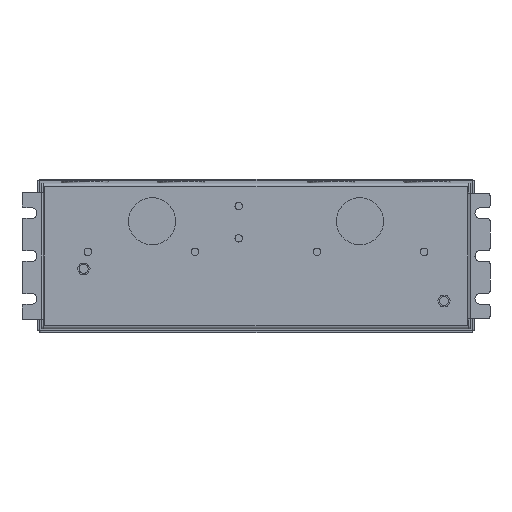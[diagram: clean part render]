
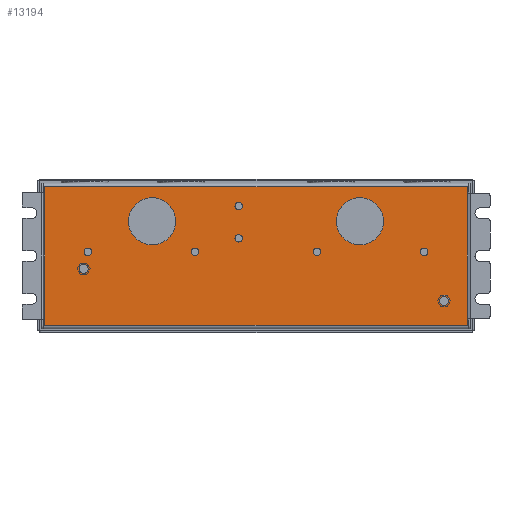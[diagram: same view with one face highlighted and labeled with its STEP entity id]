
A CAD part, front view. The second image highlights one B-rep face of the part: STEP entity #13194.
In plain terms, the highlighted planar face has unit normal (0, -1, 0).
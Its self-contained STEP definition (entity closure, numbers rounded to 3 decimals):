
#10654=CARTESIAN_POINT('',(-28.5,0.,1.95));
#10655=DIRECTION('',(0.,-1.,0.));
#10656=DIRECTION('',(-1.,0.,0.));
#10657=AXIS2_PLACEMENT_3D('',#10654,#10655,#10656);
#10662=CARTESIAN_POINT('',(-28.5,0.,1.95));
#10663=DIRECTION('',(0.,-1.,0.));
#10664=DIRECTION('',(1.,0.,0.));
#10665=AXIS2_PLACEMENT_3D('',#10662,#10663,#10664);
#10670=CARTESIAN_POINT('',(-78.5,0.,1.95));
#10671=DIRECTION('',(0.,-1.,0.));
#10672=DIRECTION('',(-1.,0.,0.));
#10673=AXIS2_PLACEMENT_3D('',#10670,#10671,#10672);
#10678=CARTESIAN_POINT('',(-78.5,0.,1.95));
#10679=DIRECTION('',(0.,-1.,0.));
#10680=DIRECTION('',(1.,0.,0.));
#10681=AXIS2_PLACEMENT_3D('',#10678,#10679,#10680);
#10686=CARTESIAN_POINT('',(28.5,0.,1.95));
#10687=DIRECTION('',(0.,-1.,0.));
#10688=DIRECTION('',(-1.,0.,0.));
#10689=AXIS2_PLACEMENT_3D('',#10686,#10687,#10688);
#10694=CARTESIAN_POINT('',(28.5,0.,1.95));
#10695=DIRECTION('',(0.,-1.,0.));
#10696=DIRECTION('',(1.,0.,0.));
#10697=AXIS2_PLACEMENT_3D('',#10694,#10695,#10696);
#10702=CARTESIAN_POINT('',(78.5,0.,1.95));
#10703=DIRECTION('',(0.,-1.,0.));
#10704=DIRECTION('',(-1.,0.,0.));
#10705=AXIS2_PLACEMENT_3D('',#10702,#10703,#10704);
#10710=CARTESIAN_POINT('',(78.5,0.,1.95));
#10711=DIRECTION('',(0.,-1.,0.));
#10712=DIRECTION('',(1.,0.,0.));
#10713=AXIS2_PLACEMENT_3D('',#10710,#10711,#10712);
#10718=CARTESIAN_POINT('',(-8.067,0.,8.275));
#10719=DIRECTION('',(0.,-1.,0.));
#10720=DIRECTION('',(-1.,0.,0.));
#10721=AXIS2_PLACEMENT_3D('',#10718,#10719,#10720);
#10726=CARTESIAN_POINT('',(-8.067,0.,8.275));
#10727=DIRECTION('',(0.,-1.,0.));
#10728=DIRECTION('',(1.,0.,0.));
#10729=AXIS2_PLACEMENT_3D('',#10726,#10727,#10728);
#10734=CARTESIAN_POINT('',(-8.067,0.,23.275));
#10735=DIRECTION('',(0.,-1.,0.));
#10736=DIRECTION('',(-1.,0.,0.));
#10737=AXIS2_PLACEMENT_3D('',#10734,#10735,#10736);
#10742=CARTESIAN_POINT('',(-8.067,0.,23.275));
#10743=DIRECTION('',(0.,-1.,0.));
#10744=DIRECTION('',(1.,0.,0.));
#10745=AXIS2_PLACEMENT_3D('',#10742,#10743,#10744);
#10750=CARTESIAN_POINT('',(48.5,0.,16.2));
#10751=DIRECTION('',(0.,-1.,0.));
#10752=DIRECTION('',(1.,0.,0.));
#10753=AXIS2_PLACEMENT_3D('',#10750,#10751,#10752);
#10758=CARTESIAN_POINT('',(48.5,0.,16.2));
#10759=DIRECTION('',(0.,-1.,0.));
#10760=DIRECTION('',(-1.,0.,0.));
#10761=AXIS2_PLACEMENT_3D('',#10758,#10759,#10760);
#10766=CARTESIAN_POINT('',(-48.5,0.,16.2));
#10767=DIRECTION('',(0.,-1.,0.));
#10768=DIRECTION('',(1.,0.,0.));
#10769=AXIS2_PLACEMENT_3D('',#10766,#10767,#10768);
#10774=CARTESIAN_POINT('',(-48.5,0.,16.2));
#10775=DIRECTION('',(0.,-1.,0.));
#10776=DIRECTION('',(-1.,0.,0.));
#10777=AXIS2_PLACEMENT_3D('',#10774,#10775,#10776);
#10782=CARTESIAN_POINT('',(87.73,0.,-20.98));
#10783=DIRECTION('',(0.,-1.,0.));
#10784=DIRECTION('',(1.,0.,0.));
#10785=AXIS2_PLACEMENT_3D('',#10782,#10783,#10784);
#10790=CARTESIAN_POINT('',(87.73,0.,-20.98));
#10791=DIRECTION('',(0.,-1.,0.));
#10792=DIRECTION('',(-1.,0.,0.));
#10793=AXIS2_PLACEMENT_3D('',#10790,#10791,#10792);
#10798=CARTESIAN_POINT('',(-80.46,0.,-5.98));
#10799=DIRECTION('',(0.,-1.,0.));
#10800=DIRECTION('',(1.,0.,0.));
#10801=AXIS2_PLACEMENT_3D('',#10798,#10799,#10800);
#10806=CARTESIAN_POINT('',(-80.46,0.,-5.98));
#10807=DIRECTION('',(0.,-1.,0.));
#10808=DIRECTION('',(-1.,0.,0.));
#10809=AXIS2_PLACEMENT_3D('',#10806,#10807,#10808);
#10814=DIRECTION('',(0.,0.,-1.));
#10815=VECTOR('',#10814,64.8);
#10816=CARTESIAN_POINT('',(-98.69,0.,32.4));
#10817=LINE('',#10816,#10815);
#10821=DIRECTION('',(1.,0.,0.));
#10822=VECTOR('',#10821,197.38);
#10823=CARTESIAN_POINT('',(-98.69,0.,32.4));
#10824=LINE('',#10823,#10822);
#10828=DIRECTION('',(0.,0.,1.));
#10829=VECTOR('',#10828,64.8);
#10830=CARTESIAN_POINT('',(98.69,0.,-32.4));
#10831=LINE('',#10830,#10829);
#10835=DIRECTION('',(-1.,0.,0.));
#10836=VECTOR('',#10835,197.38);
#10837=CARTESIAN_POINT('',(98.69,0.,-32.4));
#10838=LINE('',#10837,#10836);
#12773=CARTESIAN_POINT('',(-30.25,0.,1.95));
#12774=CARTESIAN_POINT('',(-26.75,0.,1.95));
#12775=VERTEX_POINT('',#12773);
#12776=VERTEX_POINT('',#12774);
#12777=CARTESIAN_POINT('',(-80.25,0.,1.95));
#12778=CARTESIAN_POINT('',(-76.75,0.,1.95));
#12779=VERTEX_POINT('',#12777);
#12780=VERTEX_POINT('',#12778);
#12781=CARTESIAN_POINT('',(26.75,0.,1.95));
#12782=CARTESIAN_POINT('',(30.25,0.,1.95));
#12783=VERTEX_POINT('',#12781);
#12784=VERTEX_POINT('',#12782);
#12785=CARTESIAN_POINT('',(76.75,0.,1.95));
#12786=CARTESIAN_POINT('',(80.25,0.,1.95));
#12787=VERTEX_POINT('',#12785);
#12788=VERTEX_POINT('',#12786);
#12789=CARTESIAN_POINT('',(-9.817,0.,8.275));
#12790=CARTESIAN_POINT('',(-6.317,0.,8.275));
#12791=VERTEX_POINT('',#12789);
#12792=VERTEX_POINT('',#12790);
#12793=CARTESIAN_POINT('',(-9.817,0.,23.275));
#12794=CARTESIAN_POINT('',(-6.317,0.,23.275));
#12795=VERTEX_POINT('',#12793);
#12796=VERTEX_POINT('',#12794);
#12797=CARTESIAN_POINT('',(59.5,0.,16.2));
#12798=CARTESIAN_POINT('',(37.5,0.,16.2));
#12799=VERTEX_POINT('',#12797);
#12800=VERTEX_POINT('',#12798);
#12801=CARTESIAN_POINT('',(-37.5,0.,16.2));
#12802=CARTESIAN_POINT('',(-59.5,0.,16.2));
#12803=VERTEX_POINT('',#12801);
#12804=VERTEX_POINT('',#12802);
#12805=CARTESIAN_POINT('',(89.83,0.,-20.98));
#12806=CARTESIAN_POINT('',(85.63,0.,-20.98));
#12807=VERTEX_POINT('',#12805);
#12808=VERTEX_POINT('',#12806);
#12809=CARTESIAN_POINT('',(-78.36,0.,-5.98));
#12810=CARTESIAN_POINT('',(-82.56,0.,-5.98));
#12811=VERTEX_POINT('',#12809);
#12812=VERTEX_POINT('',#12810);
#13065=CARTESIAN_POINT('',(-98.69,0.,32.4));
#13066=CARTESIAN_POINT('',(-98.69,0.,-32.4));
#13067=VERTEX_POINT('',#13065);
#13068=VERTEX_POINT('',#13066);
#13073=CARTESIAN_POINT('',(98.69,0.,-32.4));
#13074=CARTESIAN_POINT('',(98.69,0.,32.4));
#13075=VERTEX_POINT('',#13073);
#13076=VERTEX_POINT('',#13074);
#13120=CARTESIAN_POINT('',(0.,0.,0.));
#13121=DIRECTION('',(0.,1.,0.));
#13122=DIRECTION('',(1.,0.,0.));
#13123=AXIS2_PLACEMENT_3D('',#13120,#13121,#13122);
#13124=PLANE('',#13123);
#13126=ORIENTED_EDGE('',*,*,#13125,.F.);
#13128=ORIENTED_EDGE('',*,*,#13127,.T.);
#13130=ORIENTED_EDGE('',*,*,#13129,.F.);
#13132=ORIENTED_EDGE('',*,*,#13131,.T.);
#13133=EDGE_LOOP('',(#13126,#13128,#13130,#13132));
#13134=FACE_OUTER_BOUND('',#13133,.F.);
#13136=ORIENTED_EDGE('',*,*,#13135,.T.);
#13138=ORIENTED_EDGE('',*,*,#13137,.T.);
#13139=EDGE_LOOP('',(#13136,#13138));
#13140=FACE_BOUND('',#13139,.F.);
#13142=ORIENTED_EDGE('',*,*,#13141,.T.);
#13144=ORIENTED_EDGE('',*,*,#13143,.T.);
#13145=EDGE_LOOP('',(#13142,#13144));
#13146=FACE_BOUND('',#13145,.F.);
#13148=ORIENTED_EDGE('',*,*,#13147,.T.);
#13150=ORIENTED_EDGE('',*,*,#13149,.T.);
#13151=EDGE_LOOP('',(#13148,#13150));
#13152=FACE_BOUND('',#13151,.F.);
#13154=ORIENTED_EDGE('',*,*,#13153,.T.);
#13156=ORIENTED_EDGE('',*,*,#13155,.T.);
#13157=EDGE_LOOP('',(#13154,#13156));
#13158=FACE_BOUND('',#13157,.F.);
#13160=ORIENTED_EDGE('',*,*,#13159,.T.);
#13162=ORIENTED_EDGE('',*,*,#13161,.T.);
#13163=EDGE_LOOP('',(#13160,#13162));
#13164=FACE_BOUND('',#13163,.F.);
#13166=ORIENTED_EDGE('',*,*,#13165,.T.);
#13168=ORIENTED_EDGE('',*,*,#13167,.T.);
#13169=EDGE_LOOP('',(#13166,#13168));
#13170=FACE_BOUND('',#13169,.F.);
#13172=ORIENTED_EDGE('',*,*,#13171,.T.);
#13174=ORIENTED_EDGE('',*,*,#13173,.T.);
#13175=EDGE_LOOP('',(#13172,#13174));
#13176=FACE_BOUND('',#13175,.F.);
#13178=ORIENTED_EDGE('',*,*,#13177,.T.);
#13180=ORIENTED_EDGE('',*,*,#13179,.T.);
#13181=EDGE_LOOP('',(#13178,#13180));
#13182=FACE_BOUND('',#13181,.F.);
#13183=ORIENTED_EDGE('',*,*,#13102,.T.);
#13185=ORIENTED_EDGE('',*,*,#13184,.T.);
#13186=EDGE_LOOP('',(#13183,#13185));
#13187=FACE_BOUND('',#13186,.F.);
#13189=ORIENTED_EDGE('',*,*,#13188,.T.);
#13191=ORIENTED_EDGE('',*,*,#13190,.T.);
#13192=EDGE_LOOP('',(#13189,#13191));
#13193=FACE_BOUND('',#13192,.F.);
#13194=ADVANCED_FACE('',(#13134,#13140,#13146,#13152,#13158,#13164,#13170,
#13176,#13182,#13187,#13193),#13124,.F.);
#10658=CIRCLE('',#10657,1.75);
#10666=CIRCLE('',#10665,1.75);
#10674=CIRCLE('',#10673,1.75);
#10682=CIRCLE('',#10681,1.75);
#10690=CIRCLE('',#10689,1.75);
#10698=CIRCLE('',#10697,1.75);
#10706=CIRCLE('',#10705,1.75);
#10714=CIRCLE('',#10713,1.75);
#10722=CIRCLE('',#10721,1.75);
#10730=CIRCLE('',#10729,1.75);
#10738=CIRCLE('',#10737,1.75);
#10746=CIRCLE('',#10745,1.75);
#10754=CIRCLE('',#10753,11.);
#10762=CIRCLE('',#10761,11.);
#10770=CIRCLE('',#10769,11.);
#10778=CIRCLE('',#10777,11.);
#10786=CIRCLE('',#10785,2.1);
#10794=CIRCLE('',#10793,2.1);
#10802=CIRCLE('',#10801,2.1);
#10810=CIRCLE('',#10809,2.1);
#13102=EDGE_CURVE('',#12811,#12812,#10802,.T.);
#13125=EDGE_CURVE('',#13067,#13068,#10817,.T.);
#13127=EDGE_CURVE('',#13067,#13076,#10824,.T.);
#13129=EDGE_CURVE('',#13075,#13076,#10831,.T.);
#13131=EDGE_CURVE('',#13075,#13068,#10838,.T.);
#13135=EDGE_CURVE('',#12779,#12780,#10674,.T.);
#13137=EDGE_CURVE('',#12780,#12779,#10682,.T.);
#13141=EDGE_CURVE('',#12783,#12784,#10690,.T.);
#13143=EDGE_CURVE('',#12784,#12783,#10698,.T.);
#13147=EDGE_CURVE('',#12787,#12788,#10706,.T.);
#13149=EDGE_CURVE('',#12788,#12787,#10714,.T.);
#13153=EDGE_CURVE('',#12791,#12792,#10722,.T.);
#13155=EDGE_CURVE('',#12792,#12791,#10730,.T.);
#13159=EDGE_CURVE('',#12795,#12796,#10738,.T.);
#13161=EDGE_CURVE('',#12796,#12795,#10746,.T.);
#13165=EDGE_CURVE('',#12799,#12800,#10754,.T.);
#13167=EDGE_CURVE('',#12800,#12799,#10762,.T.);
#13171=EDGE_CURVE('',#12803,#12804,#10770,.T.);
#13173=EDGE_CURVE('',#12804,#12803,#10778,.T.);
#13177=EDGE_CURVE('',#12807,#12808,#10786,.T.);
#13179=EDGE_CURVE('',#12808,#12807,#10794,.T.);
#13184=EDGE_CURVE('',#12812,#12811,#10810,.T.);
#13188=EDGE_CURVE('',#12775,#12776,#10658,.T.);
#13190=EDGE_CURVE('',#12776,#12775,#10666,.T.);
